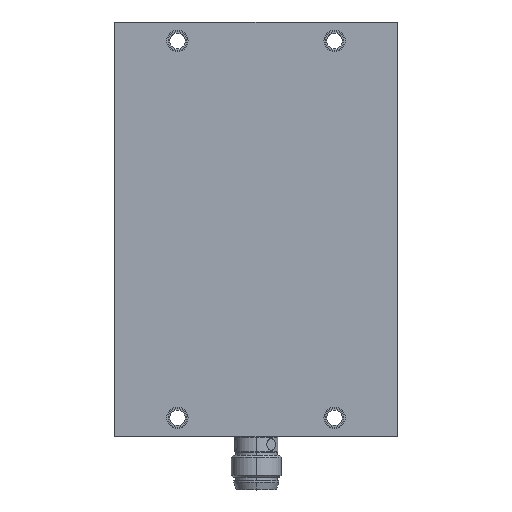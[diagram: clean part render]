
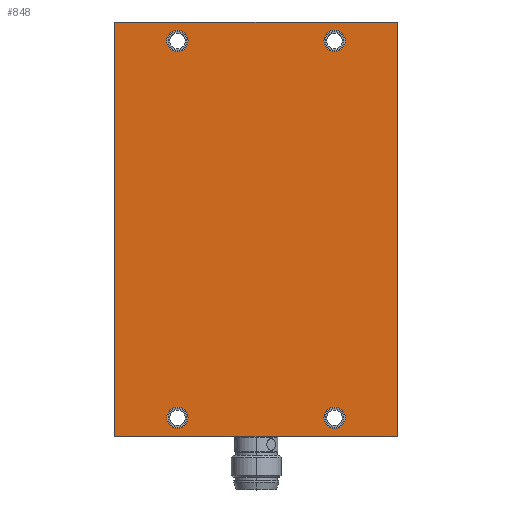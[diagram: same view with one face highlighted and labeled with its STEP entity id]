
A CAD part, top view. The second image highlights one B-rep face of the part: STEP entity #848.
In plain terms, the highlighted planar face has unit normal (0, 0, 1).
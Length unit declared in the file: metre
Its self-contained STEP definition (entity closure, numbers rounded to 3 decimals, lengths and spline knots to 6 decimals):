
#848=ADVANCED_FACE('0:3123',(#1686,#1687,#1688,#1689,#1690),#1691,.T.);
#1686=FACE_BOUND('',#2619,.T.);
#1687=FACE_BOUND('',#2620,.T.);
#1688=FACE_BOUND('',#2621,.T.);
#1689=FACE_BOUND('',#2622,.T.);
#1690=FACE_OUTER_BOUND('',#2623,.T.);
#1691=PLANE('',#2624);
#2619=EDGE_LOOP('',(#4769,#4770));
#2620=EDGE_LOOP('',(#4771,#4772));
#2621=EDGE_LOOP('',(#4773,#4774));
#2622=EDGE_LOOP('',(#4775,#4776));
#2623=EDGE_LOOP('',(#4777,#4778,#4779,#4780));
#2624=AXIS2_PLACEMENT_3D('',#4781,#4782,#4783);
#4769=ORIENTED_EDGE('',*,*,#5648,.T.);
#4770=ORIENTED_EDGE('',*,*,#5650,.T.);
#4771=ORIENTED_EDGE('',*,*,#5643,.T.);
#4772=ORIENTED_EDGE('',*,*,#5653,.T.);
#4773=ORIENTED_EDGE('',*,*,#5638,.T.);
#4774=ORIENTED_EDGE('',*,*,#5656,.T.);
#4775=ORIENTED_EDGE('',*,*,#5633,.T.);
#4776=ORIENTED_EDGE('',*,*,#5659,.T.);
#4777=ORIENTED_EDGE('',*,*,#5662,.F.);
#4778=ORIENTED_EDGE('',*,*,#5675,.F.);
#4779=ORIENTED_EDGE('',*,*,#5671,.F.);
#4780=ORIENTED_EDGE('',*,*,#5667,.F.);
#4781=CARTESIAN_POINT('',(0.0025,-0.007,0.022));
#4782=DIRECTION('',(0.0,0.0,1.0));
#4783=DIRECTION('',(1.0,0.0,0.0));
#5633=EDGE_CURVE('0:3419',#6913,#6917,#6919,.T.);
#5638=EDGE_CURVE('0:3830',#6922,#6926,#6928,.T.);
#5643=EDGE_CURVE('0:4262',#6931,#6935,#6937,.T.);
#5648=EDGE_CURVE('0:4715',#6940,#6944,#6946,.T.);
#5650=EDGE_CURVE('',#6944,#6940,#6948,.T.);
#5653=EDGE_CURVE('',#6935,#6931,#6951,.T.);
#5656=EDGE_CURVE('',#6926,#6922,#6954,.T.);
#5659=EDGE_CURVE('',#6917,#6913,#6957,.T.);
#5662=EDGE_CURVE('0:3129',#6960,#6961,#6962,.T.);
#5667=EDGE_CURVE('0:3141',#6961,#6969,#6970,.T.);
#5671=EDGE_CURVE('0:3150',#6969,#6975,#6976,.T.);
#5675=EDGE_CURVE('0:3159',#6975,#6960,#6981,.T.);
#6913=VERTEX_POINT('',#9284);
#6917=VERTEX_POINT('',#9289);
#6919=CIRCLE('',#9292,0.0017);
#6922=VERTEX_POINT('',#9295);
#6926=VERTEX_POINT('',#9300);
#6928=CIRCLE('',#9303,0.0017);
#6931=VERTEX_POINT('',#9306);
#6935=VERTEX_POINT('',#9311);
#6937=CIRCLE('',#9314,0.0017);
#6940=VERTEX_POINT('',#9317);
#6944=VERTEX_POINT('',#9322);
#6946=CIRCLE('',#9325,0.0017);
#6948=CIRCLE('',#9327,0.0017);
#6951=CIRCLE('',#9330,0.0017);
#6954=CIRCLE('',#9333,0.0017);
#6957=CIRCLE('',#9336,0.0017);
#6960=VERTEX_POINT('',#9339);
#6961=VERTEX_POINT('',#9340);
#6962=LINE('',#9341,#9342);
#6969=VERTEX_POINT('',#9352);
#6970=LINE('',#9353,#9354);
#6975=VERTEX_POINT('',#9361);
#6976=LINE('',#9362,#9363);
#6981=LINE('',#9370,#9371);
#9284=CARTESIAN_POINT('',(-0.0117,-0.037,0.022));
#9289=CARTESIAN_POINT('',(-0.0083,-0.037,0.022));
#9292=AXIS2_PLACEMENT_3D('',#10483,#10484,#10485);
#9295=CARTESIAN_POINT('',(0.0133,-0.037,0.022));
#9300=CARTESIAN_POINT('',(0.0167,-0.037,0.022));
#9303=AXIS2_PLACEMENT_3D('',#10491,#10492,#10493);
#9306=CARTESIAN_POINT('',(0.0133,0.023,0.022));
#9311=CARTESIAN_POINT('',(0.0167,0.023,0.022));
#9314=AXIS2_PLACEMENT_3D('',#10499,#10500,#10501);
#9317=CARTESIAN_POINT('',(-0.0117,0.023,0.022));
#9322=CARTESIAN_POINT('',(-0.0083,0.023,0.022));
#9325=AXIS2_PLACEMENT_3D('',#10507,#10508,#10509);
#9327=AXIS2_PLACEMENT_3D('',#10510,#10511,#10512);
#9330=AXIS2_PLACEMENT_3D('',#10516,#10517,#10518);
#9333=AXIS2_PLACEMENT_3D('',#10522,#10523,#10524);
#9336=AXIS2_PLACEMENT_3D('',#10528,#10529,#10530);
#9339=CARTESIAN_POINT('',(-0.02,0.026,0.022));
#9340=CARTESIAN_POINT('',(0.025,0.026,0.022));
#9341=CARTESIAN_POINT('',(0.025,0.026,0.022));
#9342=VECTOR('',#10534,1.0);
#9352=CARTESIAN_POINT('',(0.025,-0.04,0.022));
#9353=CARTESIAN_POINT('',(0.025,-0.04,0.022));
#9354=VECTOR('',#10538,1.0);
#9361=CARTESIAN_POINT('',(-0.02,-0.04,0.022));
#9362=CARTESIAN_POINT('',(-0.02,-0.04,0.022));
#9363=VECTOR('',#10541,1.0);
#9370=CARTESIAN_POINT('',(-0.02,0.026,0.022));
#9371=VECTOR('',#10544,1.0);
#10483=CARTESIAN_POINT('',(-0.01,-0.037,0.022));
#10484=DIRECTION('',(-0.0,0.0,-1.0));
#10485=DIRECTION('',(-1.0,0.0,0.0));
#10491=CARTESIAN_POINT('',(0.015,-0.037,0.022));
#10492=DIRECTION('',(-0.0,0.0,-1.0));
#10493=DIRECTION('',(-1.0,0.0,0.0));
#10499=CARTESIAN_POINT('',(0.015,0.023,0.022));
#10500=DIRECTION('',(-0.0,0.0,-1.0));
#10501=DIRECTION('',(-1.0,0.0,0.0));
#10507=CARTESIAN_POINT('',(-0.01,0.023,0.022));
#10508=DIRECTION('',(-0.0,0.0,-1.0));
#10509=DIRECTION('',(-1.0,0.0,0.0));
#10510=CARTESIAN_POINT('',(-0.01,0.023,0.022));
#10511=DIRECTION('',(-0.0,0.0,-1.0));
#10512=DIRECTION('',(-1.0,0.0,0.0));
#10516=CARTESIAN_POINT('',(0.015,0.023,0.022));
#10517=DIRECTION('',(-0.0,0.0,-1.0));
#10518=DIRECTION('',(-1.0,0.0,0.0));
#10522=CARTESIAN_POINT('',(0.015,-0.037,0.022));
#10523=DIRECTION('',(-0.0,0.0,-1.0));
#10524=DIRECTION('',(-1.0,0.0,0.0));
#10528=CARTESIAN_POINT('',(-0.01,-0.037,0.022));
#10529=DIRECTION('',(-0.0,0.0,-1.0));
#10530=DIRECTION('',(-1.0,0.0,0.0));
#10534=DIRECTION('',(1.0,0.0,0.0));
#10538=DIRECTION('',(-0.0,-1.0,-0.0));
#10541=DIRECTION('',(-1.0,-0.0,-0.0));
#10544=DIRECTION('',(0.0,1.0,0.0));
